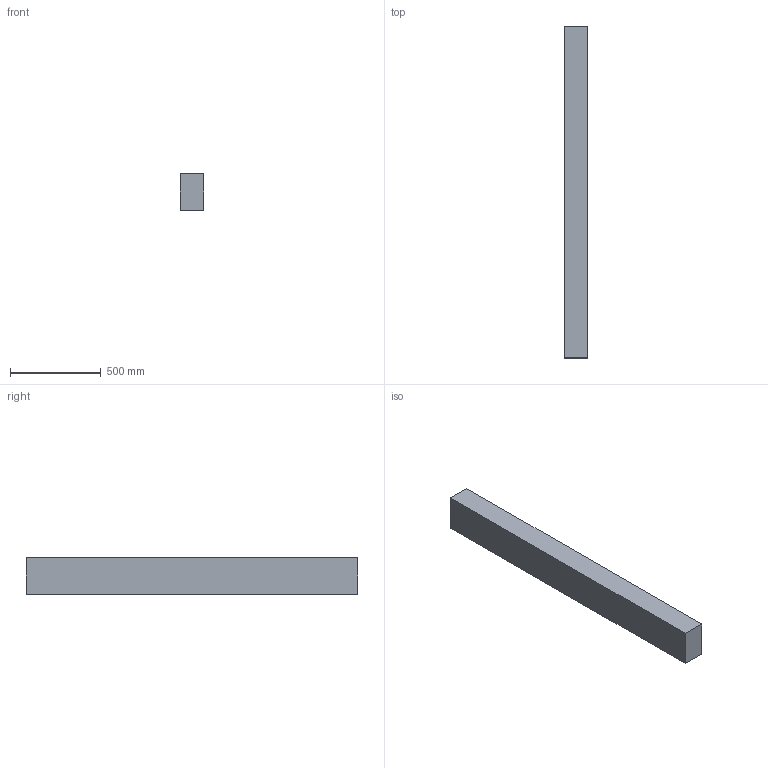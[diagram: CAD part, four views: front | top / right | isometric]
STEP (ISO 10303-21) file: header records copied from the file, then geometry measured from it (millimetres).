
FILE_DESCRIPTION(/* description */ (''),/* implementation_level */ '2;1');
FILE_NAME(/* name */ '5x8x72',/* time_stamp */ '2024-09-20T11:46:20-05:00',/* author */ (''),/* organization */ (''),/* preprocessor_version */ 'ST-DEVELOPER v19.2',/* originating_system */ 'Rhino 8.5',/* authorisation */ '');
FILE_SCHEMA (('CONFIG_CONTROL_DESIGN'));
Length unit declared in the file: inch
Products named in the file (1): Document
Bounding box: 127 x 1828.8 x 203.2 mm (x, y, z)
Volume: 47194744.3 mm3; surface area: 1259352.3 mm2
Topology: 1 solids, 1 shells, 6 faces, 12 edges, 8 vertices
Faces by surface type: plane 6
Entity records: 226 total; most frequent: CARTESIAN_POINT 40, ORIENTED_EDGE 24, EDGE_CURVE 12, B_SPLINE_CURVE_WITH_KNOTS 12, DIRECTION 10, VERTEX_POINT 8, AXIS2_PLACEMENT_3D 8, ORGANIZATION 7
